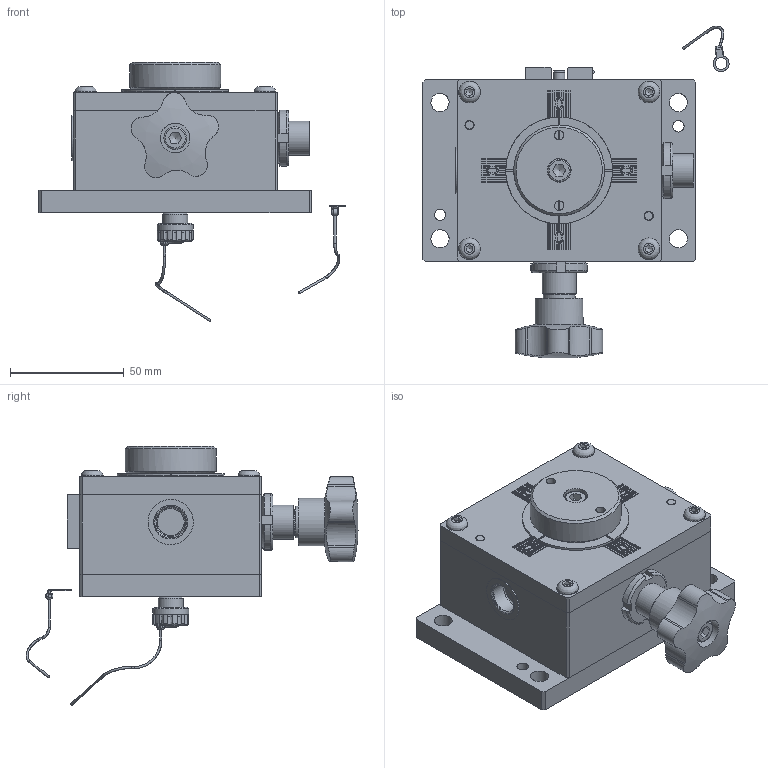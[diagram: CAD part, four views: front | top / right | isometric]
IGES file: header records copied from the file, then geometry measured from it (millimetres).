
Global section: file name: 146.00-L-X; native system: Autodesk Inventor 2019; preprocessor: unknown; author: AP; date: 20200220.145827; units: millimetre
Bounding box: 134.82 x 146.23 x 114.1 mm (x, y, z)
Volume: 392890.8 mm3; surface area: 135164.1 mm2
Topology: 45 solids, 45 shells, 1079 faces, 2794 edges, 1903 vertices
Faces by surface type: bspline 1079
